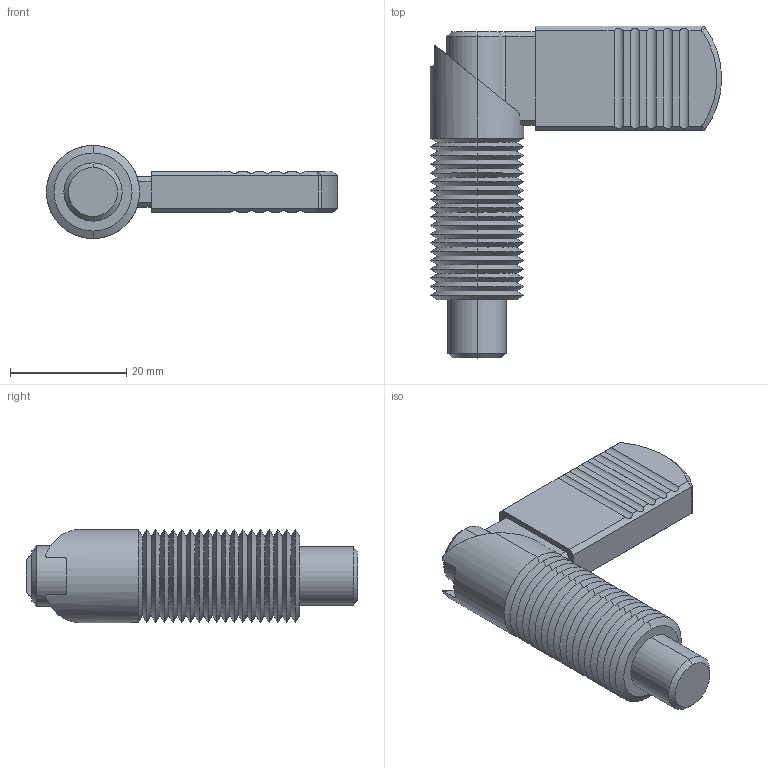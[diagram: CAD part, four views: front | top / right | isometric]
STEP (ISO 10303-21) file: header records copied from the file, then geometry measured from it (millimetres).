
FILE_DESCRIPTION (( 'STEP AP203' ), '1' );
FILE_NAME ('32501.W0369.step', '2016-02-10T17:23:13', ( 'User' ), ( '' ), 'SwSTEP 2.0', 'SolidWorks 2009', '' );
FILE_SCHEMA (( 'CONFIG_CONTROL_DESIGN' ));
Length unit declared in the file: millimetre
Products named in the file (4): Part2_32501.W0369; Part1_32501.W0369; Part3_32501.W0369; 32501.W0369
Assembly tree (3 placements, depth 2):
  32501.W0369
    Part3_32501.W0369
    Part1_32501.W0369
    Part2_32501.W0369
Bounding box: 50 x 57 x 16 mm (x, y, z)
Volume: 9668.9 mm3; surface area: 10316 mm2
Topology: 3 solids, 3 shells, 204 faces, 481 edges, 287 vertices
Faces by surface type: cone 91, cylinder 56, plane 53, bspline 4
Entity records: 6306 total; most frequent: CARTESIAN_POINT 1386, ORIENTED_EDGE 962, DIRECTION 936, EDGE_CURVE 481, AXIS2_PLACEMENT_3D 339, VERTEX_POINT 287, VECTOR 258, LINE 258
